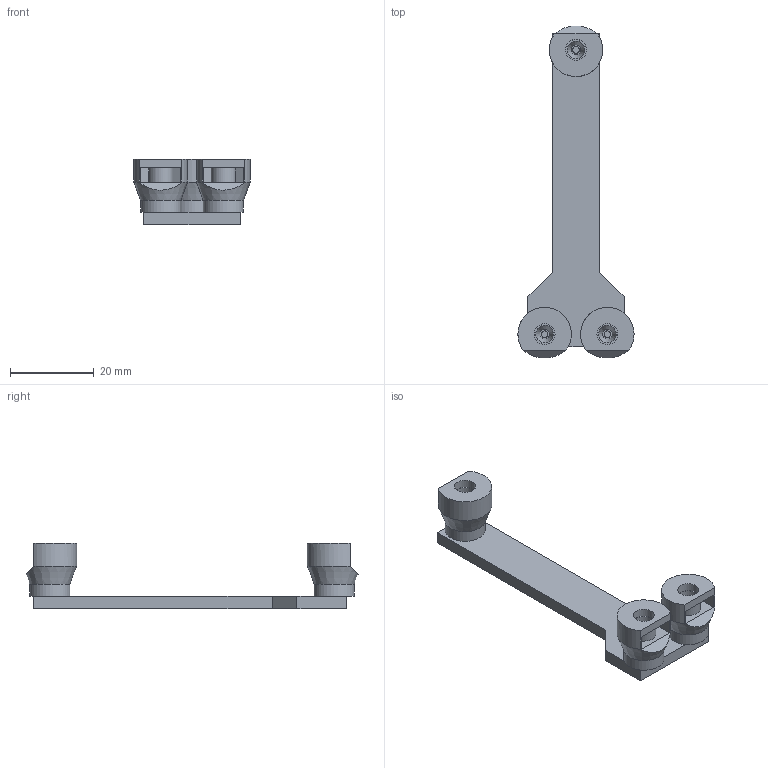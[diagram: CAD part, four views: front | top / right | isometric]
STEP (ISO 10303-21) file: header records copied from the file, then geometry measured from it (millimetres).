
FILE_DESCRIPTION(/* description */ (''),/* implementation_level */ '2;1');
FILE_NAME(/* name */ 'V:\Flow\Inventor\Mischertests\Mischzone Weaving - 1,6 - couterclock.stp',/* time_stamp */ '2019-12-20T09:54:41+01:00',/* author */ ('JN'),/* organization */ (''),/* preprocessor_version */ 'ST-DEVELOPER v17',/* originating_system */ 'Autodesk Inventor 2018',/* authorisation */ '');
FILE_SCHEMA (('AUTOMOTIVE_DESIGN { 1 0 10303 214 3 1 1 }'));
Length unit declared in the file: millimetre
Products named in the file (3): SAR; Flow Reaktor 16 - Test Mischzonen 2; 10-32 Mutter einschieben
Assembly tree (4 placements, depth 2):
  SAR
    Flow Reaktor 16 - Test Mischzonen 2
    10-32 Mutter einschieben  x3
Bounding box: 27.8 x 79.4 x 15.7 mm (x, y, z)
Volume: 5444.5 mm3; surface area: 6338.3 mm2
Topology: 7 solids, 7 shells, 244 faces, 682 edges, 424 vertices
Faces by surface type: plane 214, cylinder 24, cone 6
Full cylindrical faces by diameter (mm): 1.6 x3, 2.4 x3, 5 x9, 5.8 x3, 9.6 x3
Entity records: 6493 total; most frequent: ORIENTED_EDGE 1148, CARTESIAN_POINT 1135, DIRECTION 1017, EDGE_CURVE 574, LINE 537, VECTOR 537, VERTEX_POINT 352, AXIS2_PLACEMENT_3D 240
